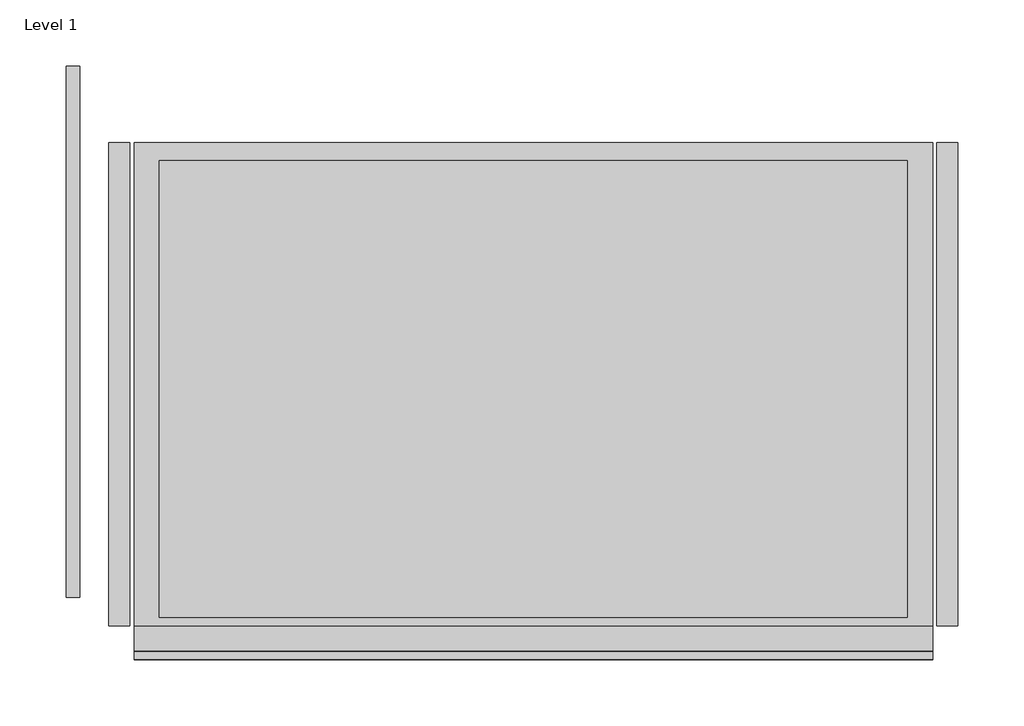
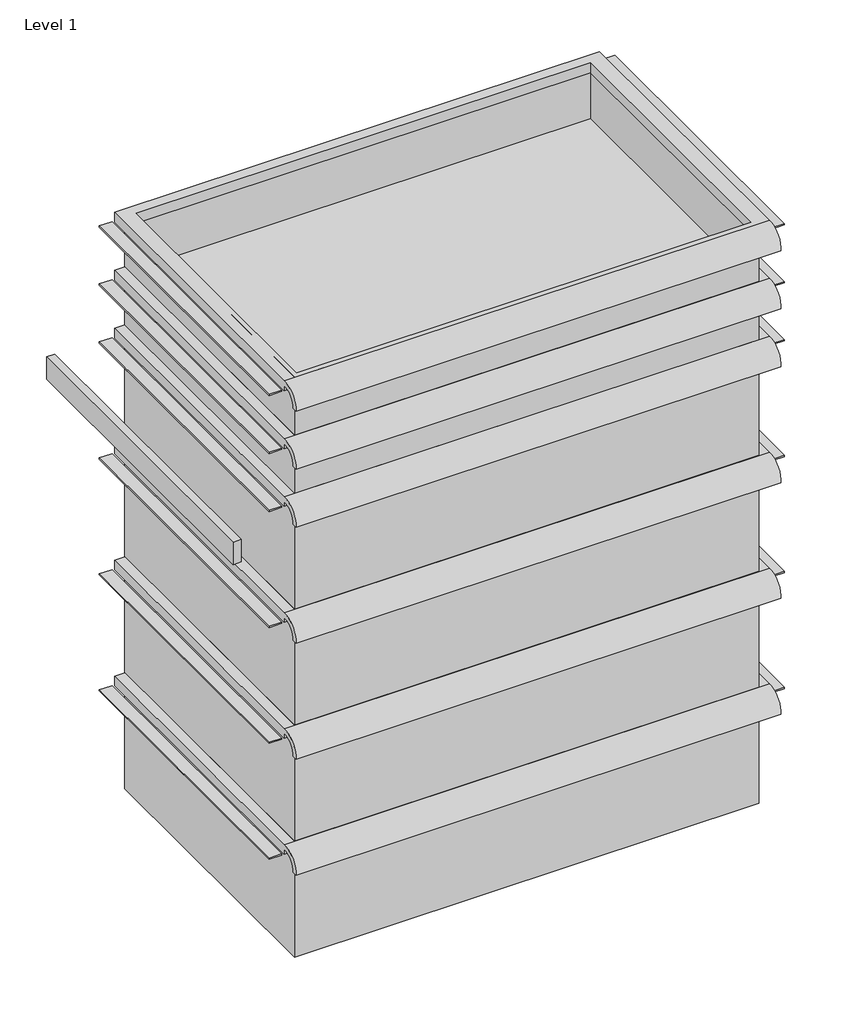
# One storey, incomplete: 7 furniture elements.
"""IFC4 building model written with IfcOpenShell, lengths in millimetres."""

from ifc_helpers import new_model, si_unit, origin, place, context, project, spatial, transform, mapped, element, save
from components import furniture_76b79d5f, furniture_9746303b, furniture_1082dac0, furniture_9667c672, furniture_4502353a, furniture_ea94e118, furniture_63bd0a72

model = new_model("IFC4")

# Units and contexts
model_context = context("Model", 3, world=origin())
ifc_project = project(units=[si_unit("LENGTHUNIT", "METRE", prefix="MILLI")], contexts=[model_context])

# Site, building, storey
site = spatial("IfcSite", under=ifc_project)
building = spatial("IfcBuilding", under=site)
storey = spatial("IfcBuildingStorey", under=building, Name="Level 1", Elevation=0.0)

# Furniture
placement = place(None, origin())
furniture_shape = furniture_76b79d5f(model_context)
element("IfcFurniture", 1, ObjectType="HermanMiller_Carts_CT511_Drawer : 3\"H x 15\"D x 24\"W", at=placement, inside=storey, context=model_context, shape_type="MappedRepresentation", body=[
    mapped(furniture_shape, transform((401.7324986, -344.0406403, 0.0), x_axis=(1.0, 0.0, 0.0), y_axis=(0.0, 1.0, 0.0), z_axis=(0.0, 0.0, 1.0))),
])
furniture_2_shape = furniture_9746303b(model_context)
element("IfcFurniture", 2, ObjectType="HermanMiller_Carts_CT511_Drawer : 3\"H x 15\"D x 24\"W", at=placement, inside=storey, context=model_context, shape_type="MappedRepresentation", body=[
    mapped(furniture_2_shape, transform((401.7324986, -344.0406403, 0.0), x_axis=(1.0, 0.0, 0.0), y_axis=(0.0, 1.0, 0.0), z_axis=(0.0, 0.0, 1.0))),
])
furniture_3_shape = furniture_1082dac0(model_context)
element("IfcFurniture", 3, ObjectType="HermanMiller_Carts_CT511_Drawer : 6\"H x 15\"D x 24\"W", at=placement, inside=storey, context=model_context, shape_type="MappedRepresentation", body=[
    mapped(furniture_3_shape, transform((401.7324986, -344.0406403, 0.0), x_axis=(1.0, 0.0, 0.0), y_axis=(0.0, 1.0, 0.0), z_axis=(0.0, 0.0, 1.0))),
])
furniture_4_shape = furniture_9667c672(model_context)
element("IfcFurniture", 4, ObjectType="HermanMiller_Carts_CT511_Drawer : 6\"H x 15\"D x 24\"W", at=placement, inside=storey, context=model_context, shape_type="MappedRepresentation", body=[
    mapped(furniture_4_shape, transform((401.7324986, -344.0406403, 0.0), x_axis=(1.0, 0.0, 0.0), y_axis=(0.0, 1.0, 0.0), z_axis=(0.0, 0.0, 1.0))),
])
furniture_5_shape = furniture_4502353a(model_context)
element("IfcFurniture", 5, ObjectType="HermanMiller_Carts_CT511_Drawer : 6\"H x 15\"D x 24\"W", at=placement, inside=storey, context=model_context, shape_type="MappedRepresentation", body=[
    mapped(furniture_5_shape, transform((401.7324986, -344.0406403, 0.0), x_axis=(1.0, 0.0, 0.0), y_axis=(0.0, 1.0, 0.0), z_axis=(0.0, 0.0, 1.0))),
])
furniture_6_shape = furniture_ea94e118(model_context)
element("IfcFurniture", 6, ObjectType="HermanMiller_Carts_CT511_Drawer : 6\"H x 15\"D x 24\"W", at=placement, inside=storey, context=model_context, shape_type="MappedRepresentation", body=[
    mapped(furniture_6_shape, transform((401.7324986, -344.0406403, 0.0), x_axis=(1.0, 0.0, 0.0), y_axis=(0.0, 1.0, 0.0), z_axis=(0.0, 0.0, 1.0))),
])
furniture_7_shape = furniture_63bd0a72(model_context)
element("IfcFurniture", 7, ObjectType="HermanMiller_Carts_CT782_AccessoryRailSide : 15\"W Left Sect 4", at=placement, inside=storey, context=model_context, shape_type="MappedRepresentation", body=[
    mapped(furniture_7_shape, transform((57.246663, -291.5261403, 0.0), x_axis=(1.0, 0.0, 0.0), y_axis=(0.0, 1.0, 0.0), z_axis=(0.0, 0.0, 1.0))),
])

save(model, "model.ifc")
